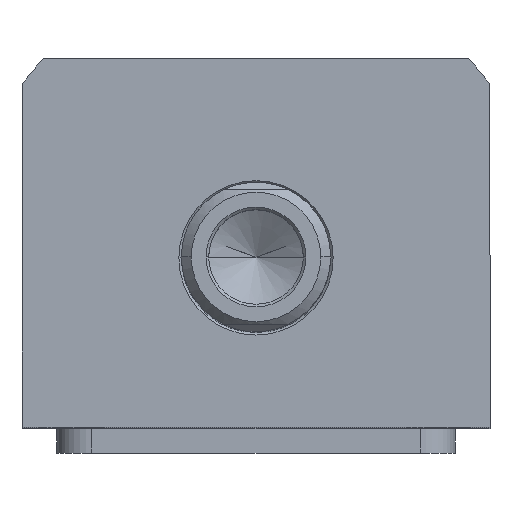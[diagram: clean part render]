
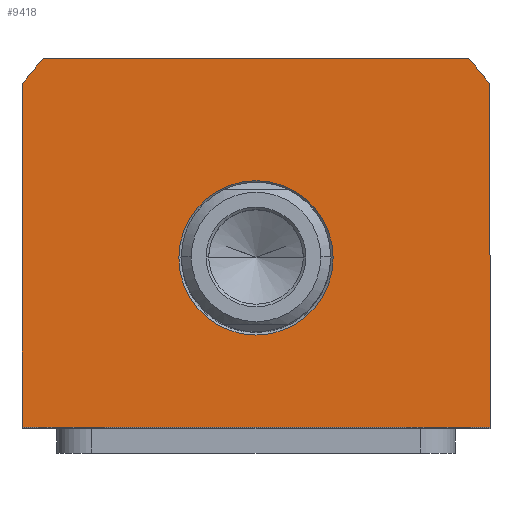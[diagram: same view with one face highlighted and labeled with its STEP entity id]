
A CAD part, top view. The second image highlights one B-rep face of the part: STEP entity #9418.
In plain terms, the highlighted planar face has unit normal (0, 0, 1).
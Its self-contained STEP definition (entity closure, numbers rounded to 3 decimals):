
#17 = CIRCLE ( 'NONE', #9139, 58.5 ) ;
#21 = DIRECTION ( 'NONE',  ( -1., 0., 0. ) ) ;
#369 = CARTESIAN_POINT ( 'NONE',  ( 0., 0., 85. ) ) ;
#606 = VERTEX_POINT ( 'NONE', #9097 ) ;
#719 = VECTOR ( 'NONE', #21, 1000. ) ;
#840 = EDGE_CURVE ( 'NONE', #1805, #4561, #4439, .T. ) ;
#933 = EDGE_CURVE ( 'NONE', #10315, #6231, #1011, .T. ) ;
#1011 = LINE ( 'NONE', #6393, #719 ) ;
#1081 = DIRECTION ( 'NONE',  ( 1., 0., 0. ) ) ;
#1376 = DIRECTION ( 'NONE',  ( 0., 0., 1. ) ) ;
#1670 = CARTESIAN_POINT ( 'NONE',  ( 0., 0., 85. ) ) ;
#1792 = CARTESIAN_POINT ( 'NONE',  ( 47., -34., 85. ) ) ;
#1805 = VERTEX_POINT ( 'NONE', #8961 ) ;
#2013 = CARTESIAN_POINT ( 'NONE',  ( 0., 0., 85. ) ) ;
#2167 = CIRCLE ( 'NONE', #9220, 15.5 ) ;
#2188 = DIRECTION ( 'NONE',  ( 1., 0., 0. ) ) ;
#2429 = CARTESIAN_POINT ( 'NONE',  ( 0., 0., 85. ) ) ;
#2468 = ORIENTED_EDGE ( 'NONE', *, *, #4695, .T. ) ;
#2721 = VECTOR ( 'NONE', #9960, 1000. ) ;
#3085 = DIRECTION ( 'NONE',  ( 0., 0., 1. ) ) ;
#3305 = EDGE_CURVE ( 'NONE', #3392, #10315, #17, .T. ) ;
#3392 = VERTEX_POINT ( 'NONE', #6118 ) ;
#3422 = ORIENTED_EDGE ( 'NONE', *, *, #3305, .T. ) ;
#3600 = DIRECTION ( 'NONE',  ( 0., 1., 0. ) ) ;
#3726 = CARTESIAN_POINT ( 'NONE',  ( -42.688, 40., 85. ) ) ;
#4297 = CARTESIAN_POINT ( 'NONE',  ( -47., -34., 85. ) ) ;
#4439 = LINE ( 'NONE', #9854, #7190 ) ;
#4561 = VERTEX_POINT ( 'NONE', #4297 ) ;
#4695 = EDGE_CURVE ( 'NONE', #6231, #1805, #7350, .T. ) ;
#4761 = AXIS2_PLACEMENT_3D ( 'NONE', #2429, #9788, #5222 ) ;
#5222 = DIRECTION ( 'NONE',  ( 1., 0., 0. ) ) ;
#5389 = FACE_OUTER_BOUND ( 'NONE', #9515, .T. ) ;
#5560 = CARTESIAN_POINT ( 'NONE',  ( 15.5, 0., 85. ) ) ;
#5588 = EDGE_CURVE ( 'NONE', #11010, #606, #8189, .T. ) ;
#5999 = CARTESIAN_POINT ( 'NONE',  ( 0., 0., 85. ) ) ;
#6091 = EDGE_CURVE ( 'NONE', #4561, #11189, #9043, .T. ) ;
#6118 = CARTESIAN_POINT ( 'NONE',  ( 47., 34.832, 85. ) ) ;
#6148 = DIRECTION ( 'NONE',  ( 0., 0., 1. ) ) ;
#6231 = VERTEX_POINT ( 'NONE', #3726 ) ;
#6313 = EDGE_CURVE ( 'NONE', #606, #11010, #2167, .T. ) ;
#6393 = CARTESIAN_POINT ( 'NONE',  ( -42.688, 40., 85. ) ) ;
#6693 = CARTESIAN_POINT ( 'NONE',  ( 42.688, 40., 85. ) ) ;
#6861 = EDGE_LOOP ( 'NONE', ( #7353, #7442 ) ) ;
#7063 = ORIENTED_EDGE ( 'NONE', *, *, #840, .T. ) ;
#7190 = VECTOR ( 'NONE', #7205, 1000. ) ;
#7205 = DIRECTION ( 'NONE',  ( 0., -1., 0. ) ) ;
#7273 = VECTOR ( 'NONE', #3600, 1000. ) ;
#7350 = CIRCLE ( 'NONE', #11210, 58.5 ) ;
#7353 = ORIENTED_EDGE ( 'NONE', *, *, #5588, .T. ) ;
#7442 = ORIENTED_EDGE ( 'NONE', *, *, #6313, .T. ) ;
#8070 = DIRECTION ( 'NONE',  ( 1., 0., 0. ) ) ;
#8081 = DIRECTION ( 'NONE',  ( 0., 0., -1. ) ) ;
#8189 = CIRCLE ( 'NONE', #4761, 15.5 ) ;
#8229 = EDGE_CURVE ( 'NONE', #11189, #3392, #10422, .T. ) ;
#8431 = AXIS2_PLACEMENT_3D ( 'NONE', #369, #3085, #1081 ) ;
#8602 = PLANE ( 'NONE',  #8431 ) ;
#8956 = ORIENTED_EDGE ( 'NONE', *, *, #933, .T. ) ;
#8961 = CARTESIAN_POINT ( 'NONE',  ( -47., 34.832, 85. ) ) ;
#9043 = LINE ( 'NONE', #10875, #2721 ) ;
#9097 = CARTESIAN_POINT ( 'NONE',  ( -15.5, 0., 85. ) ) ;
#9139 = AXIS2_PLACEMENT_3D ( 'NONE', #5999, #1376, #10645 ) ;
#9220 = AXIS2_PLACEMENT_3D ( 'NONE', #2013, #8081, #2188 ) ;
#9418 = ADVANCED_FACE ( 'NONE', ( #10267, #5389 ), #8602, .T. ) ;
#9515 = EDGE_LOOP ( 'NONE', ( #10325, #11471, #3422, #8956, #2468, #7063 ) ) ;
#9788 = DIRECTION ( 'NONE',  ( 0., 0., -1. ) ) ;
#9854 = CARTESIAN_POINT ( 'NONE',  ( -47., -34., 85. ) ) ;
#9960 = DIRECTION ( 'NONE',  ( 1., 0., 0. ) ) ;
#10267 = FACE_BOUND ( 'NONE', #6861, .T. ) ;
#10315 = VERTEX_POINT ( 'NONE', #6693 ) ;
#10325 = ORIENTED_EDGE ( 'NONE', *, *, #6091, .T. ) ;
#10422 = LINE ( 'NONE', #11847, #7273 ) ;
#10645 = DIRECTION ( 'NONE',  ( 1., 0., 0. ) ) ;
#10875 = CARTESIAN_POINT ( 'NONE',  ( 47., -34., 85. ) ) ;
#11010 = VERTEX_POINT ( 'NONE', #5560 ) ;
#11189 = VERTEX_POINT ( 'NONE', #1792 ) ;
#11210 = AXIS2_PLACEMENT_3D ( 'NONE', #1670, #6148, #8070 ) ;
#11471 = ORIENTED_EDGE ( 'NONE', *, *, #8229, .T. ) ;
#11847 = CARTESIAN_POINT ( 'NONE',  ( 47., 34.832, 85. ) ) ;
